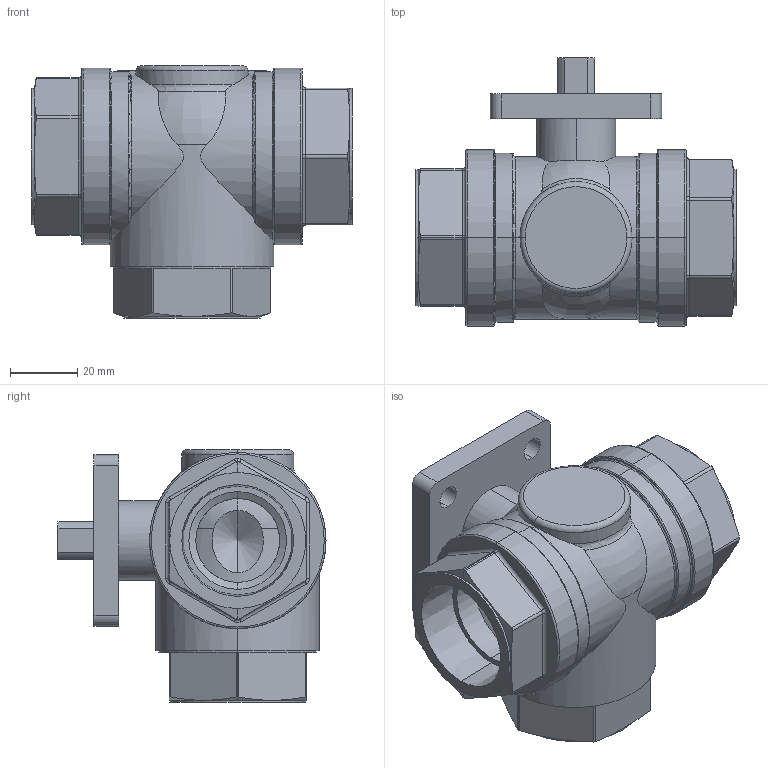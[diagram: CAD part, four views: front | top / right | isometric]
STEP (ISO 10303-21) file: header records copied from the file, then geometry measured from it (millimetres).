
FILE_DESCRIPTION (( 'STEP AP203' ), '1' );
FILE_NAME ('b2s-8tl.STEP', '2021-06-29T17:17:33', ( 'Owner' ), ( '' ), 'SwSTEP 2.0', 'SolidWorks 2017', '' );
FILE_SCHEMA (( 'CONFIG_CONTROL_DESIGN' ));
Length unit declared in the file: inch
Products named in the file (2): b2s-8tl
Bounding box: 95 x 79.54 x 74.93 mm (x, y, z)
Volume: 156707.7 mm3; surface area: 41170.4 mm2
Topology: 1 solids, 1 shells, 216 faces, 550 edges, 343 vertices
Faces by surface type: cylinder 91, plane 60, torus 45, cone 20
Entity records: 7678 total; most frequent: CARTESIAN_POINT 2350, ORIENTED_EDGE 1096, DIRECTION 1096, EDGE_CURVE 548, AXIS2_PLACEMENT_3D 446, VERTEX_POINT 343, EDGE_LOOP 233, CIRCLE 228
